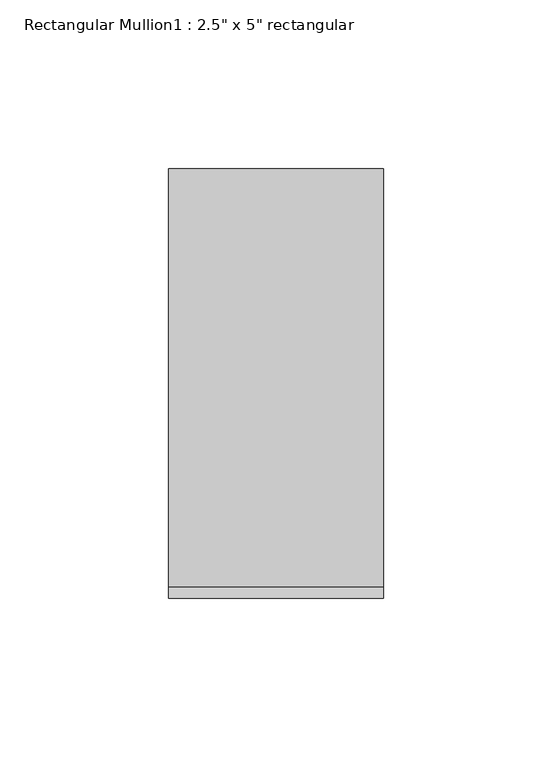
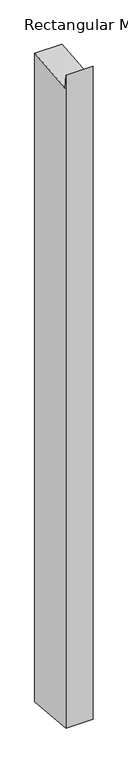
"""IFC4 building model written with IfcOpenShell, lengths in millimetres: member geometry."""

from ifc_helpers import new_model, si_unit, frame, origin, place, context, project, spatial, polyline, outline, extrude, source, transform, mapped, element, save


def member_c2dac231(model_context):
    return source(origin(), model_context, "Body", "SweptSolid", [
        extrude(outline(polyline([(-63.5, 28.7582861), (-60.2336356, -5.8295375), (63.5, 5.8554747), (63.5, -1598.9426588), (-63.5, -1586.9491815), (-63.5, 28.7582861)])), frame((-63.5, 0.0, 0.0), z_axis=(1.0, 0.0, 0.0), x_axis=(0.0, 1.0, 0.0)), (0.0, 0.0, 1.0), 63.5),
    ])


if __name__ == "__main__":
    model = new_model("IFC4")
    model_context = context("Model", 3, world=origin())
    ifc_project = project(units=[si_unit("LENGTHUNIT", "METRE", prefix="MILLI")], contexts=[model_context])
    site = spatial("IfcSite", under=ifc_project)
    building = spatial("IfcBuilding", under=site)
    placement = place(None, origin())
    member_shape = member_c2dac231(model_context)
    element("IfcMember", 1, ObjectType="Rectangular Mullion1 : 2.5\" x 5\" rectangular", at=placement, inside=building, context=model_context, shape_type="MappedRepresentation", body=[
        mapped(member_shape, transform((0.0, 0.0, 0.0), x_axis=(1.0, 0.0, 0.0), y_axis=(0.0, 1.0, 0.0), z_axis=(0.0, 0.0, 1.0))),
    ])
    save(model, "model.ifc")
